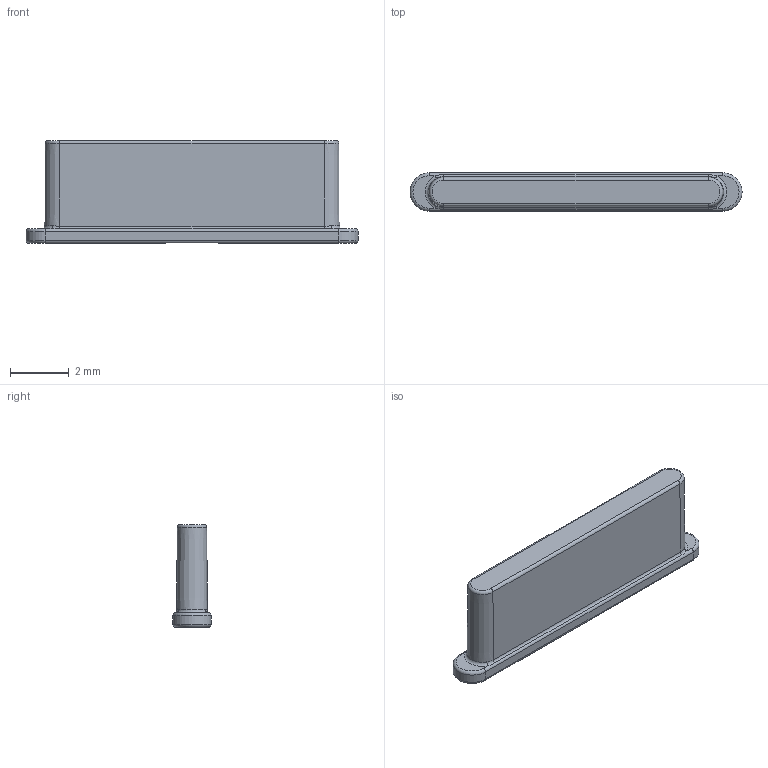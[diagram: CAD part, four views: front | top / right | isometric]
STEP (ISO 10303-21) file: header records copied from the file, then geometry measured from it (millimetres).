
FILE_DESCRIPTION(/* description */ (''),/* implementation_level */ '2;1');
FILE_NAME(/* name */ 'C:\Users\intelsath\Documents\Inventor\Cryptowallet\Button Cap.stp',/* time_stamp */ '2018-09-03T11:56:34-07:00',/* author */ ('intelsath'),/* organization */ (''),/* preprocessor_version */ 'ST-DEVELOPER v16.5',/* originating_system */ 'Autodesk Inventor 2017',/* authorisation */ '');
FILE_SCHEMA (('AUTOMOTIVE_DESIGN { 1 0 10303 214 3 1 1 }'));
Length unit declared in the file: millimetre
Products named in the file (1): Button Cap
Bounding box: 11.3 x 1.3 x 3.5 mm (x, y, z)
Volume: 36.4 mm3; surface area: 102.5 mm2
Topology: 1 solids, 1 shells, 38 faces, 88 edges, 52 vertices
Faces by surface type: plane 14, cylinder 10, torus 8, bspline 4, cone 2
Entity records: 1174 total; most frequent: CARTESIAN_POINT 279, DIRECTION 190, ORIENTED_EDGE 176, EDGE_CURVE 88, AXIS2_PLACEMENT_3D 75, VERTEX_POINT 52, LINE 40, VECTOR 40
